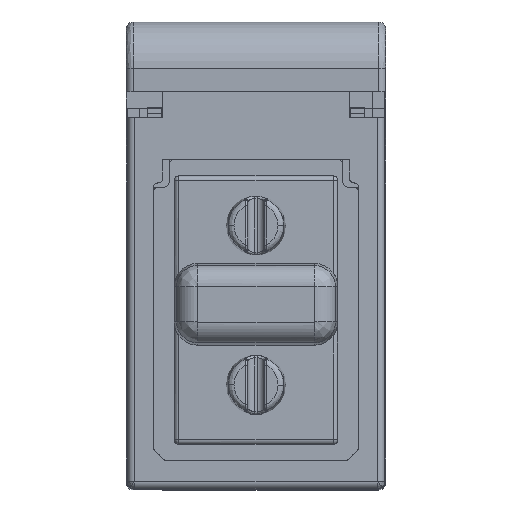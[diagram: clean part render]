
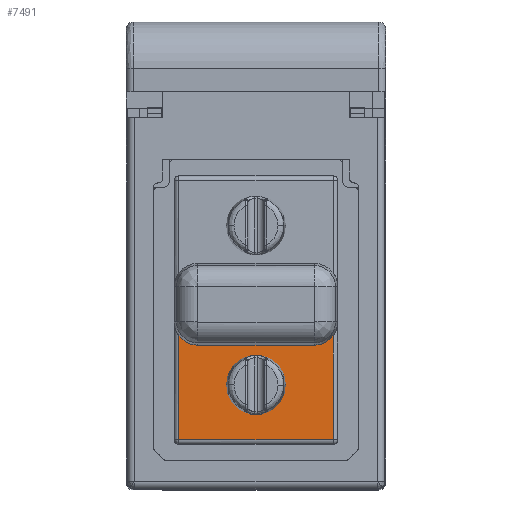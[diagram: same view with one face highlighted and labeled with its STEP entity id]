
A CAD part, top view. The second image highlights one B-rep face of the part: STEP entity #7491.
In plain terms, the highlighted planar face has unit normal (0, 0, 1).
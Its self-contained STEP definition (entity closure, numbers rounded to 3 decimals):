
#341 = CARTESIAN_POINT ( 'NONE',  ( 1.034, -3.288, 14.748 ) ) ;
#378 = B_SPLINE_CURVE_WITH_KNOTS ( 'NONE', 3,
 ( #27606, #17313, #55863, #26966, #41470, #8337, #51067, #41155, #22134 ),
 .UNSPECIFIED., .F., .F.,
 ( 4, 1, 2, 2, 4 ),
 ( 0., 0.25, 0.375, 0.5, 1. ),
 .UNSPECIFIED. ) ;
#1106 = CARTESIAN_POINT ( 'NONE',  ( -4.379, -3.199, 14.748 ) ) ;
#1480 = CARTESIAN_POINT ( 'NONE',  ( -4.766, -4.371, 14.748 ) ) ;
#3558 = CARTESIAN_POINT ( 'NONE',  ( 1.834, -5.855, 14.748 ) ) ;
#3681 = LINE ( 'NONE', #62407, #14473 ) ;
#4964 = ORIENTED_EDGE ( 'NONE', *, *, #21074, .T. ) ;
#6230 = CARTESIAN_POINT ( 'NONE',  ( 2.284, -3.288, 14.748 ) ) ;
#6523 = PLANE ( 'NONE',  #61045 ) ;
#7491 = ADVANCED_FACE ( 'NONE', ( #26093 ), #6523, .T. ) ;
#8337 = CARTESIAN_POINT ( 'NONE',  ( 1.515, -3.165, 14.748 ) ) ;
#9206 = ORIENTED_EDGE ( 'NONE', *, *, #23565, .T. ) ;
#11129 = VERTEX_POINT ( 'NONE', #14193 ) ;
#13100 = VERTEX_POINT ( 'NONE', #48155 ) ;
#13580 = CARTESIAN_POINT ( 'NONE',  ( -3.966, -3.288, 14.748 ) ) ;
#13608 = DIRECTION ( 'NONE',  ( -1., 0., 0. ) ) ;
#14193 = CARTESIAN_POINT ( 'NONE',  ( -4.766, -2.888, 14.748 ) ) ;
#14453 = CARTESIAN_POINT ( 'NONE',  ( 1.834, -2.888, 14.748 ) ) ;
#14473 = VECTOR ( 'NONE', #13608, 1000. ) ;
#14935 = ORIENTED_EDGE ( 'NONE', *, *, #60708, .T. ) ;
#15152 = CARTESIAN_POINT ( 'NONE',  ( -4.766, -2.888, 14.748 ) ) ;
#15783 = CARTESIAN_POINT ( 'NONE',  ( -4.553, -3.114, 14.748 ) ) ;
#15822 = B_SPLINE_CURVE_WITH_KNOTS ( 'NONE', 3,
 ( #19494, #52379, #3558, #18284 ),
 .UNSPECIFIED., .F., .F.,
 ( 4, 4 ),
 ( 0., 1. ),
 .UNSPECIFIED. ) ;
#16456 = LINE ( 'NONE', #6230, #21459 ) ;
#17313 = CARTESIAN_POINT ( 'NONE',  ( 1.787, -2.95, 14.748 ) ) ;
#18284 = CARTESIAN_POINT ( 'NONE',  ( 1.834, -7.338, 14.748 ) ) ;
#19494 = CARTESIAN_POINT ( 'NONE',  ( 1.834, -2.888, 14.748 ) ) ;
#20790 = EDGE_CURVE ( 'NONE', #39846, #11129, #34878, .T. ) ;
#20995 = CARTESIAN_POINT ( 'NONE',  ( -4.766, -2.888, 14.748 ) ) ;
#21074 = EDGE_CURVE ( 'NONE', #13100, #11129, #27217, .T. ) ;
#21459 = VECTOR ( 'NONE', #45421, 1000. ) ;
#22134 = CARTESIAN_POINT ( 'NONE',  ( 1.034, -3.288, 14.748 ) ) ;
#23565 = EDGE_CURVE ( 'NONE', #26914, #13100, #16456, .T. ) ;
#24831 = CARTESIAN_POINT ( 'NONE',  ( -4.268, -3.242, 14.748 ) ) ;
#25836 = CARTESIAN_POINT ( 'NONE',  ( -4.766, -7.338, 14.748 ) ) ;
#26093 = FACE_OUTER_BOUND ( 'NONE', #50846, .T. ) ;
#26914 = VERTEX_POINT ( 'NONE', #341 ) ;
#26966 = CARTESIAN_POINT ( 'NONE',  ( 1.616, -3.102, 14.748 ) ) ;
#27217 = B_SPLINE_CURVE_WITH_KNOTS ( 'NONE', 3,
 ( #13580, #52787, #49544, #24831, #50497, #1106, #15783, #55304, #15152 ),
 .UNSPECIFIED., .F., .F.,
 ( 4, 1, 2, 2, 4 ),
 ( 0., 0.25, 0.375, 0.5, 1. ),
 .UNSPECIFIED. ) ;
#27606 = CARTESIAN_POINT ( 'NONE',  ( 1.834, -2.888, 14.748 ) ) ;
#28363 = CARTESIAN_POINT ( 'NONE',  ( -4.766, -7.338, 14.748 ) ) ;
#34503 = DIRECTION ( 'NONE',  ( 0., 0., 1. ) ) ;
#34735 = VERTEX_POINT ( 'NONE', #14453 ) ;
#34878 = B_SPLINE_CURVE_WITH_KNOTS ( 'NONE', 3,
 ( #25836, #45454, #1480, #20995 ),
 .UNSPECIFIED., .F., .F.,
 ( 4, 4 ),
 ( 0., 1. ),
 .UNSPECIFIED. ) ;
#36590 = CARTESIAN_POINT ( 'NONE',  ( 1.834, -7.338, 14.748 ) ) ;
#39846 = VERTEX_POINT ( 'NONE', #28363 ) ;
#41155 = CARTESIAN_POINT ( 'NONE',  ( 1.194, -3.288, 14.748 ) ) ;
#41470 = CARTESIAN_POINT ( 'NONE',  ( 1.551, -3.145, 14.748 ) ) ;
#45421 = DIRECTION ( 'NONE',  ( -1., 0., 0. ) ) ;
#45454 = CARTESIAN_POINT ( 'NONE',  ( -4.766, -5.855, 14.748 ) ) ;
#48155 = CARTESIAN_POINT ( 'NONE',  ( -3.966, -3.288, 14.748 ) ) ;
#49544 = CARTESIAN_POINT ( 'NONE',  ( -4.157, -3.275, 14.748 ) ) ;
#49563 = DIRECTION ( 'NONE',  ( 1., 0., 0. ) ) ;
#50497 = CARTESIAN_POINT ( 'NONE',  ( -4.341, -3.215, 14.748 ) ) ;
#50846 = EDGE_LOOP ( 'NONE', ( #58636, #62980, #14935, #9206, #4964, #57319 ) ) ;
#51067 = CARTESIAN_POINT ( 'NONE',  ( 1.343, -3.253, 14.748 ) ) ;
#52379 = CARTESIAN_POINT ( 'NONE',  ( 1.834, -4.371, 14.748 ) ) ;
#52787 = CARTESIAN_POINT ( 'NONE',  ( -4.044, -3.288, 14.748 ) ) ;
#55304 = CARTESIAN_POINT ( 'NONE',  ( -4.67, -3.016, 14.748 ) ) ;
#55863 = CARTESIAN_POINT ( 'NONE',  ( 1.708, -3.033, 14.748 ) ) ;
#57319 = ORIENTED_EDGE ( 'NONE', *, *, #20790, .F. ) ;
#58268 = EDGE_CURVE ( 'NONE', #34735, #62242, #15822, .T. ) ;
#58636 = ORIENTED_EDGE ( 'NONE', *, *, #61255, .F. ) ;
#59175 = CARTESIAN_POINT ( 'NONE',  ( 2.284, 5.462, 14.748 ) ) ;
#60708 = EDGE_CURVE ( 'NONE', #34735, #26914, #378, .T. ) ;
#61045 = AXIS2_PLACEMENT_3D ( 'NONE', #59175, #34503, #49563 ) ;
#61255 = EDGE_CURVE ( 'NONE', #62242, #39846, #3681, .T. ) ;
#62242 = VERTEX_POINT ( 'NONE', #36590 ) ;
#62407 = CARTESIAN_POINT ( 'NONE',  ( -4.808, -7.338, 14.748 ) ) ;
#62980 = ORIENTED_EDGE ( 'NONE', *, *, #58268, .F. ) ;
